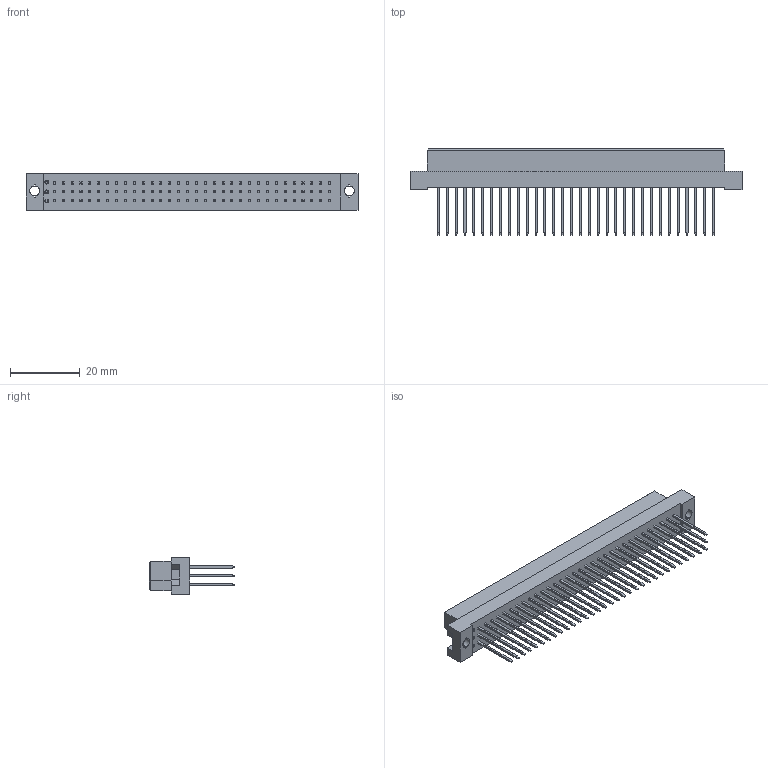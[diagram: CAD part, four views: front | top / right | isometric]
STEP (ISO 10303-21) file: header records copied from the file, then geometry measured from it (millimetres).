
FILE_DESCRIPTION (( 'STEP AP214' ), '1' );
FILE_NAME ('9001-1296W1C30A.STEP', '2022-08-03T08:48:53', ( '' ), ( '' ), 'SwSTEP 2.0', 'SolidWorks 2011', '' );
FILE_SCHEMA (( 'AUTOMOTIVE_DESIGN' ));
Length unit declared in the file: millimetre
Products named in the file (1): 9001-1296W1C30A
Bounding box: 95 x 24.6 x 10.55 mm (x, y, z)
Volume: 9343 mm3; surface area: 7950.7 mm2
Topology: 97 solids, 97 shells, 1985 faces, 4286 edges, 2599 vertices
Faces by surface type: plane 1943, bspline 24, cylinder 18
Entity records: 53901 total; most frequent: CARTESIAN_POINT 10318, ORIENTED_EDGE 8572, DIRECTION 8198, EDGE_CURVE 4286, VECTOR 4202, LINE 4202, VERTEX_POINT 2599, EDGE_LOOP 2093
